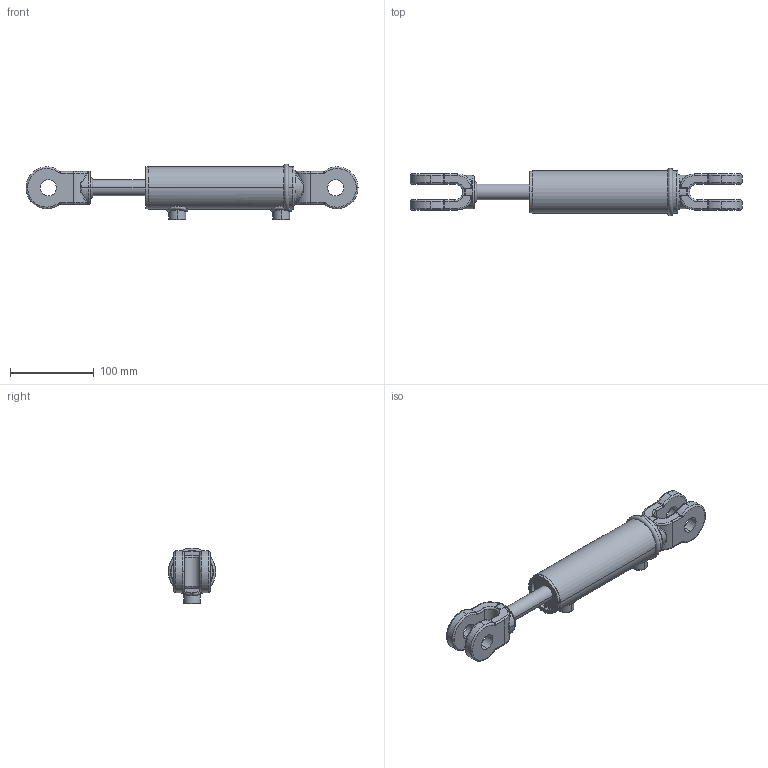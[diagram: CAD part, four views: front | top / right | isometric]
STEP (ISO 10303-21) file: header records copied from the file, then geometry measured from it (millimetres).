
FILE_DESCRIPTION (( 'STEP AP203' ), '1' );
FILE_NAME ('CL-CL150075x102 (4) .STEP', '2014-11-20T13:19:43', ( '' ), ( '' ), 'SwSTEP 2.0', 'SolidWorks 2014', '' );
FILE_SCHEMA (( 'CONFIG_CONTROL_DESIGN' ));
Length unit declared in the file: millimetre
Products named in the file (3): CL-CL150075x102 (4) BODY; 4 SPARE; CL-CL150075x102 (4) 
Assembly tree (2 placements, depth 2):
  CL-CL150075x102 (4) 
    CL-CL150075x102 (4) BODY
    4 SPARE
Bounding box: 396.41 x 56.8 x 66.8 mm (x, y, z)
Volume: 515615.6 mm3; surface area: 87885.9 mm2
Topology: 2 solids, 2 shells, 261 faces, 641 edges, 379 vertices
Faces by surface type: bspline 116, cylinder 88, plane 32, torus 17, cone 8
Entity records: 23685 total; most frequent: CARTESIAN_POINT 18075, ORIENTED_EDGE 1250, DIRECTION 902, EDGE_CURVE 625, VERTEX_POINT 379, AXIS2_PLACEMENT_3D 376, EDGE_LOOP 280, ADVANCED_FACE 261
